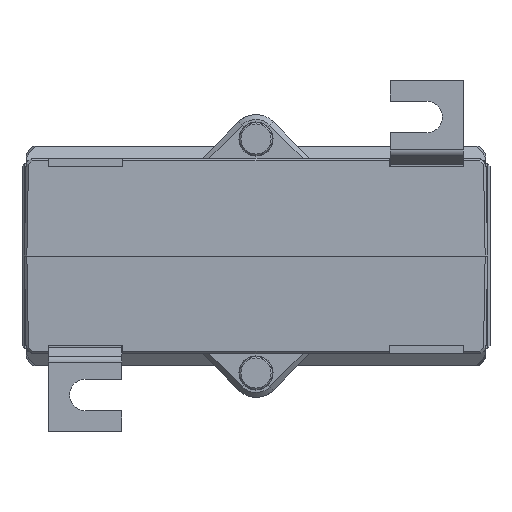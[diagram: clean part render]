
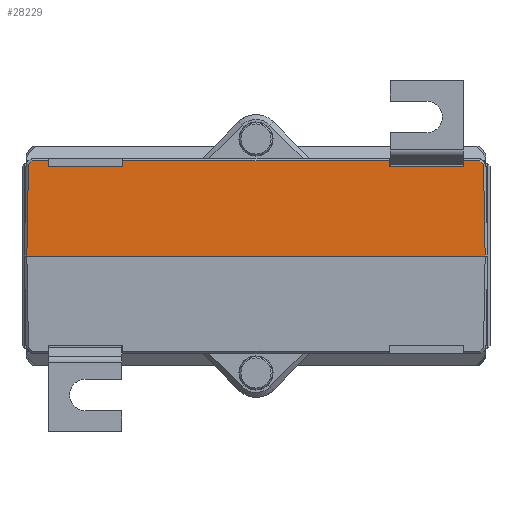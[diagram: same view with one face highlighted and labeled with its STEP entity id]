
A CAD part, front view. The second image highlights one B-rep face of the part: STEP entity #28229.
In plain terms, the highlighted planar face has unit normal (0, -1, 0.018).
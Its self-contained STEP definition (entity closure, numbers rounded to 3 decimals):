
#1285=PLANE('',#30086);
#2848=FACE_OUTER_BOUND('',#4490,.T.);
#4490=EDGE_LOOP('',(#20882,#20883,#20884,#20885,#20886,#20887,#20888,#20889,
#20890,#20891,#20892,#20893,#20894,#20895));
#6484=LINE('',#43509,#9690);
#6690=LINE('',#43984,#9896);
#6691=LINE('',#43986,#9897);
#6692=LINE('',#43988,#9898);
#6693=LINE('',#43990,#9899);
#6694=LINE('',#43992,#9900);
#6695=LINE('',#43993,#9901);
#6696=LINE('',#43995,#9902);
#6697=LINE('',#43997,#9903);
#6698=LINE('',#43999,#9904);
#6699=LINE('',#44001,#9905);
#6700=LINE('',#44003,#9906);
#6701=LINE('',#44005,#9907);
#6702=LINE('',#44006,#9908);
#9690=VECTOR('',#32343,1000.);
#9896=VECTOR('',#32673,1000.);
#9897=VECTOR('',#32674,1000.);
#9898=VECTOR('',#32675,1000.);
#9899=VECTOR('',#32676,1000.);
#9900=VECTOR('',#32677,1000.);
#9901=VECTOR('',#32678,1000.);
#9902=VECTOR('',#32679,1000.);
#9903=VECTOR('',#32680,1000.);
#9904=VECTOR('',#32681,1000.);
#9905=VECTOR('',#32682,1000.);
#9906=VECTOR('',#32683,1000.);
#9907=VECTOR('',#32684,1000.);
#9908=VECTOR('',#32685,1000.);
#13063=VERTEX_POINT('',#43506);
#13064=VERTEX_POINT('',#43508);
#13270=VERTEX_POINT('',#43982);
#13271=VERTEX_POINT('',#43983);
#13272=VERTEX_POINT('',#43985);
#13273=VERTEX_POINT('',#43987);
#13274=VERTEX_POINT('',#43989);
#13275=VERTEX_POINT('',#43991);
#13276=VERTEX_POINT('',#43994);
#13277=VERTEX_POINT('',#43996);
#13278=VERTEX_POINT('',#43998);
#13279=VERTEX_POINT('',#44000);
#13280=VERTEX_POINT('',#44002);
#13281=VERTEX_POINT('',#44004);
#15977=EDGE_CURVE('',#13064,#13063,#6484,.T.);
#16217=EDGE_CURVE('',#13270,#13271,#6690,.T.);
#16218=EDGE_CURVE('',#13272,#13270,#6691,.T.);
#16219=EDGE_CURVE('',#13273,#13272,#6692,.T.);
#16220=EDGE_CURVE('',#13273,#13274,#6693,.T.);
#16221=EDGE_CURVE('',#13274,#13275,#6694,.T.);
#16222=EDGE_CURVE('',#13275,#13064,#6695,.T.);
#16223=EDGE_CURVE('',#13063,#13276,#6696,.T.);
#16224=EDGE_CURVE('',#13276,#13277,#6697,.T.);
#16225=EDGE_CURVE('',#13277,#13278,#6698,.T.);
#16226=EDGE_CURVE('',#13279,#13278,#6699,.T.);
#16227=EDGE_CURVE('',#13279,#13280,#6700,.T.);
#16228=EDGE_CURVE('',#13281,#13280,#6701,.T.);
#16229=EDGE_CURVE('',#13281,#13271,#6702,.T.);
#20882=ORIENTED_EDGE('',*,*,#16217,.F.);
#20883=ORIENTED_EDGE('',*,*,#16218,.F.);
#20884=ORIENTED_EDGE('',*,*,#16219,.F.);
#20885=ORIENTED_EDGE('',*,*,#16220,.T.);
#20886=ORIENTED_EDGE('',*,*,#16221,.T.);
#20887=ORIENTED_EDGE('',*,*,#16222,.T.);
#20888=ORIENTED_EDGE('',*,*,#15977,.T.);
#20889=ORIENTED_EDGE('',*,*,#16223,.T.);
#20890=ORIENTED_EDGE('',*,*,#16224,.T.);
#20891=ORIENTED_EDGE('',*,*,#16225,.T.);
#20892=ORIENTED_EDGE('',*,*,#16226,.F.);
#20893=ORIENTED_EDGE('',*,*,#16227,.T.);
#20894=ORIENTED_EDGE('',*,*,#16228,.F.);
#20895=ORIENTED_EDGE('',*,*,#16229,.T.);
#28229=ADVANCED_FACE('',(#2848),#1285,.T.);
#30086=AXIS2_PLACEMENT_3D('',#43981,#32671,#32672);
#32343=DIRECTION('',(1.,0.,0.));
#32671=DIRECTION('center_axis',(0.,-1.,
0.017));
#32672=DIRECTION('ref_axis',(0.,-0.017,-1.));
#32673=DIRECTION('',(0.009,0.017,1.));
#32674=DIRECTION('',(1.,0.,0.));
#32675=DIRECTION('',(0.009,-0.017,-1.));
#32676=DIRECTION('',(-1.,0.,0.));
#32677=DIRECTION('',(-0.719,-0.012,-0.695));
#32678=DIRECTION('',(-0.017,-0.017,-1.));
#32679=DIRECTION('',(-0.017,0.017,1.));
#32680=DIRECTION('',(-0.719,0.012,0.695));
#32681=DIRECTION('',(-1.,0.,0.));
#32682=DIRECTION('',(0.009,0.017,1.));
#32683=DIRECTION('',(-1.,0.,0.));
#32684=DIRECTION('',(0.009,-0.017,-1.));
#32685=DIRECTION('',(-1.,0.,0.));
#43506=CARTESIAN_POINT('',(47.,-48.25,0.));
#43508=CARTESIAN_POINT('',(-47.,-48.25,0.));
#43509=CARTESIAN_POINT('',(-47.5,-48.25,0.));
#43981=CARTESIAN_POINT('Origin',(-47.5,-48.25,0.));
#43982=CARTESIAN_POINT('',(-27.392,-47.929,18.4));
#43983=CARTESIAN_POINT('',(-27.382,-47.91,19.5));
#43984=CARTESIAN_POINT('',(-27.554,-48.253,-0.174));
#43985=CARTESIAN_POINT('',(-42.608,-47.929,18.4));
#43986=CARTESIAN_POINT('',(-47.5,-47.929,18.4));
#43987=CARTESIAN_POINT('',(-42.618,-47.91,19.5));
#43988=CARTESIAN_POINT('',(-42.448,-48.249,0.044));
#43989=CARTESIAN_POINT('',(-45.922,-47.91,19.5));
#43990=CARTESIAN_POINT('',(-46.133,-47.91,19.5));
#43991=CARTESIAN_POINT('',(-46.672,-47.922,18.776));
#43992=CARTESIAN_POINT('',(-46.817,-47.925,18.636));
#43993=CARTESIAN_POINT('',(-47.,-48.25,-0.009));
#43994=CARTESIAN_POINT('',(46.672,-47.922,18.775));
#43995=CARTESIAN_POINT('',(46.971,-48.221,1.648));
#43996=CARTESIAN_POINT('',(45.922,-47.91,19.5));
#43997=CARTESIAN_POINT('',(45.781,-47.907,19.636));
#43998=CARTESIAN_POINT('',(42.618,-47.91,19.5));
#43999=CARTESIAN_POINT('',(-46.133,-47.91,19.5));
#44000=CARTESIAN_POINT('',(42.608,-47.929,18.4));
#44001=CARTESIAN_POINT('',(42.441,-48.264,-0.785));
#44002=CARTESIAN_POINT('',(27.392,-47.929,18.4));
#44003=CARTESIAN_POINT('',(-47.5,-47.929,18.4));
#44004=CARTESIAN_POINT('',(27.382,-47.91,19.5));
#44005=CARTESIAN_POINT('',(27.547,-48.239,0.655));
#44006=CARTESIAN_POINT('',(-46.133,-47.91,19.5));
